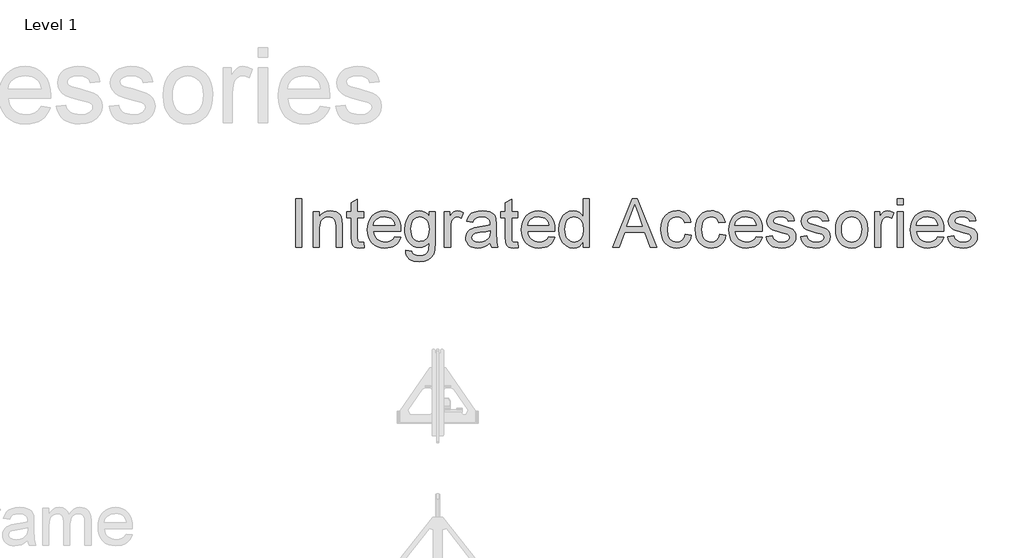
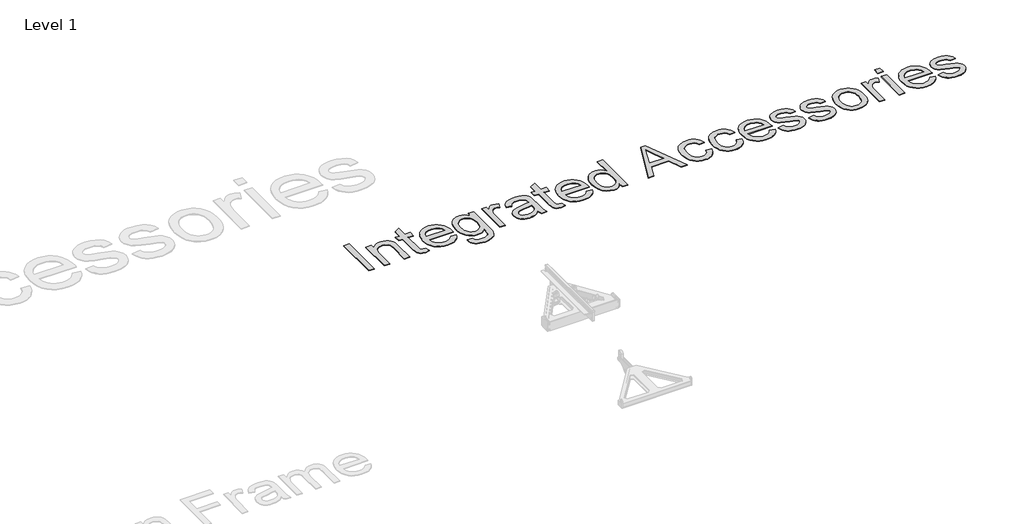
# One storey, part 17 of 52: 1 proxy.
"""IFC4 building model written with IfcOpenShell, lengths in millimetres."""

from ifc_helpers import new_model, si_unit, origin, origin_with_axes, place, context, project, spatial, polyline, outline, extrude, element, save

model = new_model("IFC4")

# Units and contexts
model_context = context("Model", 3, world=origin())
ifc_project = project(units=[si_unit("LENGTHUNIT", "METRE", prefix="MILLI")], contexts=[model_context])

# Site, building, storey
site = spatial("IfcSite", under=ifc_project)
building = spatial("IfcBuilding", under=site)
storey = spatial("IfcBuildingStorey", under=building, Name="Level 1", Elevation=0.0)

# Proxy
placement = place(None, origin())
element("IfcBuildingElementProxy", 1, Name="400mm Arial", ObjectType="400mm Arial", at=placement, inside=storey, context=model_context, shape_type="SweptSolid", body=[
    extrude(outline(polyline([(-11437.7764845, -61267.5695164), (-11437.7764845, -60875.8119407), (-11388.8067875, -60875.8119407), (-11388.8067875, -61267.5695164), (-11437.7764845, -61267.5695164)])), origin_with_axes(), (0.0, 0.0, 1.0), 5.0),
    extrude(outline(polyline([(-11296.9886057, -61267.5695164), (-11296.9886057, -60979.8725467), (-11248.0189088, -60979.8725467), (-11248.0189088, -61020.0430013), (-11231.006243, -60999.7903971), (-11210.5743065, -60985.3242513), (-11186.7230991, -60976.6445638), (-11159.4526209, -60973.7513346), (-11135.3144817, -60976.0826556), (-11113.2087762, -60983.0766187), (-11094.7734069, -60993.8604729), (-11081.6462762, -61007.5614672), (-11072.7394343, -61024.1437352), (-11066.9649315, -61043.5714104), (-11064.3825451, -61090.9151604), (-11064.3825451, -61267.5695164), (-11113.3522421, -61267.5695164), (-11113.3522421, -61097.5145922), (-11114.7629902, -61072.1928592), (-11118.9952345, -61054.1878876), (-11126.8021711, -61041.2879113), (-11138.9369959, -61031.2811642), (-11154.4910915, -61024.8610647), (-11172.5558406, -61022.7210316), (-11201.2370669, -61027.5271395), (-11225.6860489, -61041.9454634), (-11235.4566751, -61053.7156457), (-11242.4356938, -61069.8017607), (-11246.623105, -61090.2038086), (-11248.0189088, -61114.9217892), (-11248.0189088, -61267.5695164), (-11296.9886057, -61267.5695164)])), origin_with_axes(), (0.0, 0.0, 1.0), 5.0),
    extrude(outline(polyline([(-10892.9886057, -61226.7295543), (-10886.8673936, -61269.0041755), (-10923.4990224, -61273.6907285), (-10947.0035205, -61271.6582948), (-10964.5302724, -61265.5609937), (-10976.9161625, -61256.1639767), (-10984.9980754, -61244.2323952), (-10989.4455186, -61223.7406812), (-10990.9279997, -61188.6632664), (-10990.9279997, -61028.8422437), (-11027.6552724, -61028.8422437), (-11027.6552724, -60979.8725467), (-10990.9279997, -60979.8725467), (-10990.9279997, -60909.956827), (-10941.9583027, -60881.1680013), (-10941.9583027, -60979.8725467), (-10892.9886057, -60979.8725467), (-10892.9886057, -61028.8422437), (-10941.9583027, -61028.8422437), (-10941.9583027, -61187.2286073), (-10939.3759163, -61212.4786073), (-10931.0070716, -61221.4213157), (-10914.3172042, -61224.7210316), (-10892.9886057, -61226.7295543)])), origin_with_axes(), (0.0, 0.0, 1.0), 5.0),
    extrude(outline(polyline([(-10642.5927724, -61181.8725467), (-10594.5795148, -61187.9937589), (-10601.9411093, -61207.2241684), (-10611.8791124, -61224.1710789), (-10624.3935241, -61238.8344904), (-10639.4843444, -61251.2144028), (-10656.9961519, -61261.0477953), (-10676.7735252, -61268.0716471), (-10723.1249694, -61273.6907285), (-10753.5098534, -61271.2667525), (-10780.583066, -61263.9948242), (-10804.3446072, -61251.8749437), (-10824.7944769, -61234.9071111), (-10841.2392568, -61213.5635683), (-10852.9855281, -61188.3165571), (-10860.0332909, -61159.1660777), (-10862.3825451, -61126.1121301), (-10860.0093799, -61091.937355), (-10852.8898841, -61061.8154918), (-10841.0240579, -61035.7465406), (-10824.4119012, -61013.7305013), (-10804.0158311, -60996.2396159), (-10780.7982648, -60983.7461263), (-10754.7592023, -60976.2500325), (-10725.8986436, -60973.7513346), (-10697.9676244, -60976.2440548), (-10672.7086578, -60983.7222153), (-10650.1217438, -60996.1858161), (-10630.2068822, -61013.6348573), (-10613.9504014, -61035.6030747), (-10602.3386294, -61061.6242039), (-10595.3715662, -61091.6982451), (-10593.0492118, -61125.8251982), (-10593.3361436, -61139.0240619), (-10813.4128482, -61139.0240619), (-10810.5764076, -61158.5653142), (-10804.936404, -61175.6796017), (-10796.4928375, -61190.3669241), (-10785.245708, -61202.6272816), (-10756.8275025, -61219.1975941), (-10722.16853, -61224.7210316), (-10696.1055565, -61222.1625562), (-10674.1552724, -61214.4871301), (-10656.3176777, -61201.2165335), (-10642.5927724, -61181.8725467)]), holes=[polyline([(-10813.4128482, -61090.0543649), (-10642.0189088, -61090.0543649), (-10648.6422516, -61064.1826793), (-10661.6259163, -61045.675577), (-10674.9802014, -61035.6329634), (-10690.1756322, -61028.4596679), (-10726.0899315, -61022.7210316), (-10759.0990461, -61027.2999852), (-10786.3934353, -61041.036846), (-10805.3668018, -61062.4491329), (-10813.4128482, -61090.0543649)])]), origin_with_axes(), (0.0, 0.0, 1.0), 5.0),
    extrude(outline(polyline([(-10556.3219391, -61292.0543649), (-10507.3522421, -61298.175577), (-10501.9483595, -61313.4786073), (-10491.4753482, -61323.9994407), (-10470.8879902, -61332.1769975), (-10443.9403103, -61334.9028498), (-10415.1993065, -61331.8183327), (-10393.822886, -61322.5647816), (-10378.9980754, -61307.739971), (-10369.9119012, -61287.9416755), (-10366.5643633, -61230.8422437), (-10382.8596995, -61246.9104255), (-10401.0440035, -61258.3876982), (-10421.1172752, -61265.2740619), (-10443.0795148, -61267.5695164), (-10469.9285619, -61264.8974639), (-10493.5675593, -61256.8813062), (-10513.996507, -61243.5210434), (-10531.215405, -61224.8166755), (-10544.8775439, -61202.3762162), (-10554.6362146, -61177.8076793), (-10560.491417, -61151.1110647), (-10562.4431512, -61122.2863725), (-10558.9401919, -61082.749559), (-10548.4313141, -61046.3929066), (-10531.2871379, -61015.5836026), (-10507.8782838, -60992.6888346), (-10479.0057696, -60978.4857096), (-10445.4706133, -60973.7513346), (-10422.5698676, -60976.4293649), (-10401.785244, -60984.4634558), (-10383.1167426, -60997.8536073), (-10366.5643633, -61016.5998195), (-10366.5643633, -60979.8725467), (-10317.5946663, -60979.8725467), (-10317.5946663, -61228.2598573), (-10320.9422042, -61285.6103545), (-10330.9848179, -61323.3777551), (-10348.2844154, -61348.4245117), (-10373.402905, -61367.613077), (-10405.7903339, -61379.8076793), (-10444.8967497, -61383.8725467), (-10490.4591313, -61378.1458659), (-10509.6088413, -61370.9875148), (-10526.3375641, -61360.9658232), (-10539.8502594, -61348.0688358), (-10549.351887, -61332.2845969), (-10554.8424469, -61313.6131066), (-10556.3219391, -61292.0543649)]), holes=[polyline([(-10513.4734542, -61118.9388346), (-10508.248904, -61163.8556196), (-10501.7182163, -61181.0506066), (-10492.5752535, -61194.7366566), (-10481.4596344, -61205.1767903), (-10469.0109779, -61212.6340287), (-10455.229284, -61217.1083718), (-10440.1145527, -61218.5998195), (-10411.4333264, -61212.6698952), (-10387.7494959, -61194.8801225), (-10378.4810004, -61181.3285718), (-10371.8606464, -61164.3936168), (-10366.5643633, -61120.3734937), (-10372.0160679, -61077.9195401), (-10378.8306985, -61061.1489731), (-10388.3711815, -61047.349346), (-10412.4017213, -61028.8781102), (-10426.0847823, -61024.2603012), (-10440.8797042, -61022.7210316), (-10455.4265496, -61024.2363902), (-10468.843601, -61028.7824662), (-10492.2883216, -61046.9667702), (-10501.5568171, -61060.5571762), (-10508.1771711, -61077.0826556), (-10513.4734542, -61118.9388346)])]), origin_with_axes(), (0.0, 0.0, 1.0), 5.0),
    extrude(outline(polyline([(-10244.1401209, -61267.5695164), (-10244.1401209, -60979.8725467), (-10201.291636, -60979.8725467), (-10201.291636, -61022.4340998), (-10185.4625641, -60997.7579634), (-10170.8768633, -60983.2200846), (-10156.2433406, -60976.1185221), (-10140.2708027, -60973.7513346), (-10115.8815982, -60977.5292702), (-10091.1098179, -60988.863077), (-10107.4649315, -61032.7636452), (-10124.6808406, -61025.231685), (-10141.8967497, -61022.7210316), (-10156.5183169, -61025.136041), (-10169.5856701, -61032.3810695), (-10180.1423699, -61043.9061642), (-10187.2319769, -61059.1613725), (-10193.1858122, -61086.5155392), (-10195.1704239, -61116.3564482), (-10195.1704239, -61267.5695164), (-10244.1401209, -61267.5695164)])), origin_with_axes(), (0.0, 0.0, 1.0), 5.0),
    extrude(outline(polyline([(-9876.8673936, -61230.8422437), (-9900.2642923, -61250.90356), (-9924.3546095, -61264.0306907), (-9949.688298, -61271.2757191), (-9976.8153103, -61273.6907285), (-9998.6191396, -61272.2381362), (-10017.7389608, -61267.8803592), (-10034.1747741, -61260.6173976), (-10047.9265792, -61250.4492513), (-10058.7851552, -61238.0215169), (-10066.5412809, -61223.979791), (-10071.1949563, -61208.3240737), (-10072.7461815, -61191.0543649), (-10070.402905, -61170.7539388), (-10063.3730754, -61152.3185695), (-10052.5294438, -61136.5373195), (-10038.744761, -61124.1992513), (-10004.4564088, -61108.1310695), (-9962.0861436, -61100.7664861), (-9912.0165413, -61093.019327), (-9877.1543254, -61083.9331528), (-9876.8673936, -61073.0297437), (-9880.2388425, -61051.1751035), (-9890.3531891, -61036.8763346), (-9912.9729807, -61026.2598573), (-9944.4876588, -61022.7210316), (-9973.6590603, -61025.0762636), (-9994.0312194, -61032.1419596), (-10007.9235016, -61045.2093128), (-10017.6552724, -61065.5695164), (-10066.6249694, -61059.4483043), (-10058.1246143, -61032.6680013), (-10045.4398368, -61011.6263346), (-10027.3870432, -60995.5342418), (-10002.7826398, -60983.6026604), (-9972.6906654, -60976.214166), (-9938.1751588, -60973.7513346), (-9905.0704002, -60975.9272342), (-9878.8280944, -60982.4549331), (-9859.0417544, -60992.2703924), (-9845.3048936, -61004.3095732), (-9836.1948084, -61019.1941613), (-9830.2887951, -61037.5458422), (-9827.8976966, -61080.394327), (-9827.8976966, -61141.3195164), (-9825.4109542, -61226.3948005), (-9815.6552724, -61267.5695164), (-9864.6249694, -61267.5695164), (-9872.4677724, -61250.5448952), (-9876.8673936, -61230.8422437)]), holes=[polyline([(-9876.8673936, -61132.9028498), (-9909.7689088, -61141.0564956), (-9955.8692875, -61147.9189482), (-9998.0004429, -61155.8573952), (-10008.9636294, -61161.2851888), (-10017.0814088, -61168.769327), (-10022.1027156, -61177.7359464), (-10023.7764845, -61187.6111831), (-10020.1300593, -61202.1729729), (-10009.1907838, -61214.1045543), (-9991.1977677, -61222.0669123), (-9966.3901209, -61224.7210316), (-9940.0880375, -61221.7919359), (-9916.8465603, -61213.004649), (-9898.0047042, -61200.0568507), (-9884.9014845, -61184.646221), (-9879.0911152, -61168.769327), (-9877.1543254, -61146.771221), (-9876.8673936, -61132.9028498)])]), origin_with_axes(), (0.0, 0.0, 1.0), 5.0),
    extrude(outline(polyline([(-9656.5037572, -61226.7295543), (-9650.3825451, -61269.0041755), (-9687.0141739, -61273.6907285), (-9710.518672, -61271.6582948), (-9728.0454239, -61265.5609937), (-9740.4313141, -61256.1639767), (-9748.5132269, -61244.2323952), (-9752.9606701, -61223.7406812), (-9754.4431512, -61188.6632664), (-9754.4431512, -61028.8422437), (-9791.1704239, -61028.8422437), (-9791.1704239, -60979.8725467), (-9754.4431512, -60979.8725467), (-9754.4431512, -60909.956827), (-9705.4734542, -60881.1680013), (-9705.4734542, -60979.8725467), (-9656.5037572, -60979.8725467), (-9656.5037572, -61028.8422437), (-9705.4734542, -61028.8422437), (-9705.4734542, -61187.2286073), (-9702.8910679, -61212.4786073), (-9694.5222232, -61221.4213157), (-9677.8323557, -61224.7210316), (-9656.5037572, -61226.7295543)])), origin_with_axes(), (0.0, 0.0, 1.0), 5.0),
    extrude(outline(polyline([(-9406.1079239, -61181.8725467), (-9358.0946663, -61187.9937589), (-9365.4562608, -61207.2241684), (-9375.3942639, -61224.1710789), (-9387.9086756, -61238.8344904), (-9402.9994959, -61251.2144028), (-9420.5113034, -61261.0477953), (-9440.2886768, -61268.0716471), (-9486.6401209, -61273.6907285), (-9517.0250049, -61271.2667525), (-9544.0982175, -61263.9948242), (-9567.8597587, -61251.8749437), (-9588.3096285, -61234.9071111), (-9604.7544083, -61213.5635683), (-9616.5006796, -61188.3165571), (-9623.5484424, -61159.1660777), (-9625.8976966, -61126.1121301), (-9623.5245314, -61091.937355), (-9616.4050357, -61061.8154918), (-9604.5392094, -61035.7465406), (-9587.9270527, -61013.7305013), (-9567.5309826, -60996.2396159), (-9544.3134163, -60983.7461263), (-9518.2743538, -60976.2500325), (-9489.4137951, -60973.7513346), (-9461.4827759, -60976.2440548), (-9436.2238093, -60983.7222153), (-9413.6368953, -60996.1858161), (-9393.7220338, -61013.6348573), (-9377.4655529, -61035.6030747), (-9365.8537809, -61061.6242039), (-9358.8867177, -61091.6982451), (-9356.5643633, -61125.8251982), (-9356.8512951, -61139.0240619), (-9576.9279997, -61139.0240619), (-9574.0915591, -61158.5653142), (-9568.4515555, -61175.6796017), (-9560.007989, -61190.3669241), (-9548.7608595, -61202.6272816), (-9520.342654, -61219.1975941), (-9485.6836815, -61224.7210316), (-9459.620708, -61222.1625562), (-9437.6704239, -61214.4871301), (-9419.8328292, -61201.2165335), (-9406.1079239, -61181.8725467)]), holes=[polyline([(-9576.9279997, -61090.0543649), (-9405.5340603, -61090.0543649), (-9412.1574031, -61064.1826793), (-9425.1410679, -61045.675577), (-9438.4953529, -61035.6329634), (-9453.6907838, -61028.4596679), (-9489.605083, -61022.7210316), (-9522.6141976, -61027.2999852), (-9549.9085868, -61041.036846), (-9568.8819533, -61062.4491329), (-9576.9279997, -61090.0543649)])]), origin_with_axes(), (0.0, 0.0, 1.0), 5.0),
    extrude(outline(polyline([(-9130.0795148, -61267.5695164), (-9130.0795148, -61221.3734937), (-9144.7309708, -61244.2622839), (-9162.4788993, -61260.6114198), (-9183.3233003, -61270.4209014), (-9207.2641739, -61273.6907285), (-9238.9223179, -61268.9563535), (-9267.9024315, -61254.7532285), (-9292.4351019, -61232.0736594), (-9310.7509163, -61201.909952), (-9322.1564561, -61165.4815666), (-9325.9583027, -61124.0079634), (-9322.4553434, -61083.0484464), (-9311.9464656, -61046.0581528), (-9294.4436247, -61015.1412494), (-9269.9587762, -60992.4019028), (-9240.3450214, -60978.4139767), (-9207.4554618, -60973.7513346), (-9183.496655, -60977.086917), (-9162.3115224, -60987.0936642), (-9144.3543728, -61002.4325609), (-9130.0795148, -61021.7645922), (-9130.0795148, -60875.8119407), (-9081.1098179, -60875.8119407), (-9081.1098179, -61267.5695164), (-9130.0795148, -61267.5695164)]), holes=[polyline([(-9276.9886057, -61123.8166755), (-9271.4651682, -61168.111775), (-9264.5608714, -61185.4621833), (-9254.8948557, -61199.6144975), (-9230.816494, -61218.4443981), (-9217.2888543, -61223.1518732), (-9202.7689088, -61224.7210316), (-9174.733279, -61218.7313299), (-9151.2646474, -61200.7622248), (-9141.9961519, -61187.2017075), (-9135.375798, -61170.4789625), (-9130.0795148, -61127.5467892), (-9135.4714419, -61080.6095259), (-9142.2113508, -61062.5387991), (-9151.6472232, -61048.0666755), (-9163.0557518, -61036.9779563), (-9175.7136294, -61029.0574426), (-9189.620856, -61024.3051343), (-9204.7774315, -61022.7210316), (-9219.5843089, -61024.242368), (-9233.1119485, -61028.8063772), (-9245.3603505, -61036.4130593), (-9256.3295148, -61047.0624142), (-9265.3678671, -61060.987574), (-9271.823833, -61078.4216708), (-9276.9886057, -61123.8166755)])]), origin_with_axes(), (0.0, 0.0, 1.0), 5.0),
    extrude(outline(polyline([(-8894.1259163, -61267.5695164), (-8737.7480754, -60875.8119407), (-8696.0473179, -60875.8119407), (-8539.6694769, -61267.5695164), (-8591.4128482, -61267.5695164), (-8636.2698557, -61145.145274), (-8797.6211815, -61145.145274), (-8842.3825451, -61267.5695164), (-8894.1259163, -61267.5695164)]), holes=[polyline([(-8779.6401209, -61096.175577), (-8654.1552724, -61096.175577), (-8689.447886, -60999.8621301), (-8716.8976966, -60924.7816376), (-8741.2869012, -60991.4454634), (-8779.6401209, -61096.175577)])]), origin_with_axes(), (0.0, 0.0, 1.0), 5.0),
    extrude(outline(polyline([(-8309.8370906, -61163.5089104), (-8260.8673936, -61169.6301225), (-8266.1935655, -61192.7371005), (-8274.520566, -61213.1839814), (-8285.848395, -61230.9707652), (-8300.1770527, -61246.097452), (-8316.9027866, -61258.1695105), (-8335.4218444, -61266.7924094), (-8355.734226, -61271.9661488), (-8377.8399315, -61273.6907285), (-8405.3046865, -61271.2846857), (-8429.930012, -61264.0665571), (-8451.715908, -61252.0363429), (-8470.6623747, -61235.1940429), (-8485.9982826, -61213.8564778), (-8496.9525025, -61188.3404681), (-8503.5250345, -61158.6460138), (-8505.7158785, -61124.7731149), (-8501.9738093, -61081.195345), (-8490.7476019, -61043.4279445), (-8471.8579239, -61012.9294833), (-8445.1254429, -60991.1585316), (-8413.1445006, -60978.1031339), (-8378.5094391, -60973.7513346), (-8356.7833205, -60975.2457712), (-8337.1314798, -60979.7290808), (-8319.553917, -60987.2012636), (-8304.0506322, -60997.6623195), (-8290.8846462, -61010.8731386), (-8280.3189798, -61026.5946111), (-8272.353633, -61044.8267371), (-8266.9886057, -61065.5695164), (-8315.9583027, -61071.6907285), (-8324.8412336, -61050.3262636), (-8338.6737383, -61035.0112778), (-8356.6906654, -61025.7935931), (-8378.1268633, -61022.7210316), (-8394.7659199, -61024.2334014), (-8409.7730518, -61028.7705107), (-8423.1482589, -61036.3323597), (-8434.8915413, -61046.9189482), (-8444.4529464, -61060.775364), (-8451.2825214, -61078.1466945), (-8456.7461815, -61123.4340998), (-8451.4020764, -61169.3312352), (-8444.721945, -61186.8191317), (-8435.369761, -61200.6665808), (-8423.8596107, -61211.190403), (-8410.7055802, -61218.7074189), (-8395.9076694, -61223.2176284), (-8379.4658785, -61224.7210316), (-8354.108279, -61220.967007), (-8333.3176777, -61209.7049331), (-8318.1939798, -61190.6478782), (-8309.8370906, -61163.5089104)])), origin_with_axes(), (0.0, 0.0, 1.0), 5.0),
    extrude(outline(polyline([(-8034.3825451, -61163.5089104), (-7985.4128482, -61169.6301225), (-7990.73902, -61192.7371005), (-7999.0660205, -61213.1839814), (-8010.3938496, -61230.9707652), (-8024.7225072, -61246.097452), (-8041.4482411, -61258.1695105), (-8059.9672989, -61266.7924094), (-8080.2796805, -61271.9661488), (-8102.385386, -61273.6907285), (-8129.850141, -61271.2846857), (-8154.4754665, -61264.0665571), (-8176.2613626, -61252.0363429), (-8195.2078292, -61235.1940429), (-8210.5437371, -61213.8564778), (-8221.4979571, -61188.3404681), (-8228.070489, -61158.6460138), (-8230.261333, -61124.7731149), (-8226.5192639, -61081.195345), (-8215.2930565, -61043.4279445), (-8196.4033785, -61012.9294833), (-8169.6708974, -60991.1585316), (-8137.6899552, -60978.1031339), (-8103.0548936, -60973.7513346), (-8081.328775, -60975.2457712), (-8061.6769343, -60979.7290808), (-8044.0993716, -60987.2012636), (-8028.5960868, -60997.6623195), (-8015.4301008, -61010.8731386), (-8004.8644343, -61026.5946111), (-7996.8990875, -61044.8267371), (-7991.5340603, -61065.5695164), (-8040.5037572, -61071.6907285), (-8049.3866881, -61050.3262636), (-8063.2191929, -61035.0112778), (-8081.2361199, -61025.7935931), (-8102.6723179, -61022.7210316), (-8119.3113744, -61024.2334014), (-8134.3185063, -61028.7705107), (-8147.6937134, -61036.3323597), (-8159.4369959, -61046.9189482), (-8168.9984009, -61060.775364), (-8175.827976, -61078.1466945), (-8181.291636, -61123.4340998), (-8175.9475309, -61169.3312352), (-8169.2673995, -61186.8191317), (-8159.9152156, -61200.6665808), (-8148.4050652, -61211.190403), (-8135.2510347, -61218.7074189), (-8120.453124, -61223.2176284), (-8104.011333, -61224.7210316), (-8078.6537336, -61220.967007), (-8057.8631322, -61209.7049331), (-8042.7394343, -61190.6478782), (-8034.3825451, -61163.5089104)])), origin_with_axes(), (0.0, 0.0, 1.0), 5.0),
    extrude(outline(polyline([(-7741.1382269, -61181.8725467), (-7693.1249694, -61187.9937589), (-7700.4865638, -61207.2241684), (-7710.4245669, -61224.1710789), (-7722.9389786, -61238.8344904), (-7738.0297989, -61251.2144028), (-7755.5416064, -61261.0477953), (-7775.3189798, -61268.0716471), (-7821.6704239, -61273.6907285), (-7852.0553079, -61271.2667525), (-7879.1285205, -61263.9948242), (-7902.8900617, -61251.8749437), (-7923.3399315, -61234.9071111), (-7939.7847113, -61213.5635683), (-7951.5309826, -61188.3165571), (-7958.5787454, -61159.1660777), (-7960.9279997, -61126.1121301), (-7958.5548344, -61091.937355), (-7951.4353387, -61061.8154918), (-7939.5695125, -61035.7465406), (-7922.9573557, -61013.7305013), (-7902.5612857, -60996.2396159), (-7879.3437194, -60983.7461263), (-7853.3046569, -60976.2500325), (-7824.4440982, -60973.7513346), (-7796.513079, -60976.2440548), (-7771.2541124, -60983.7222153), (-7748.6671983, -60996.1858161), (-7728.7523368, -61013.6348573), (-7712.495856, -61035.6030747), (-7700.8840839, -61061.6242039), (-7693.9170207, -61091.6982451), (-7691.5946663, -61125.8251982), (-7691.8815982, -61139.0240619), (-7911.9583027, -61139.0240619), (-7909.1218621, -61158.5653142), (-7903.4818586, -61175.6796017), (-7895.038292, -61190.3669241), (-7883.7911625, -61202.6272816), (-7855.3729571, -61219.1975941), (-7820.7139845, -61224.7210316), (-7794.651011, -61222.1625562), (-7772.7007269, -61214.4871301), (-7754.8631322, -61201.2165335), (-7741.1382269, -61181.8725467)]), holes=[polyline([(-7911.9583027, -61090.0543649), (-7740.5643633, -61090.0543649), (-7747.1877061, -61064.1826793), (-7760.1713709, -61045.675577), (-7773.5256559, -61035.6329634), (-7788.7210868, -61028.4596679), (-7824.635386, -61022.7210316), (-7857.6445006, -61027.2999852), (-7884.9388898, -61041.036846), (-7903.9122563, -61062.4491329), (-7911.9583027, -61090.0543649)])]), origin_with_axes(), (0.0, 0.0, 1.0), 5.0),
    extrude(outline(polyline([(-7660.9886057, -61181.8725467), (-7612.0189088, -61175.7513346), (-7604.2956607, -61196.6973573), (-7589.3512951, -61212.0960316), (-7567.0901682, -61221.5647816), (-7537.416636, -61224.7210316), (-7508.1017686, -61221.8278024), (-7487.4904997, -61213.1481149), (-7475.2958974, -61200.5709369), (-7471.23103, -61185.9852361), (-7475.3198084, -61173.503702), (-7487.5861436, -61163.9871301), (-7537.9904997, -61150.0231149), (-7611.7319769, -61126.0643081), (-7630.3945006, -61114.0251272), (-7643.9161625, -61098.0884558), (-7652.1295858, -61079.2705107), (-7654.8673936, -61058.5875089), (-7652.667583, -61039.6141424), (-7646.0681512, -61022.099346), (-7635.6668728, -61006.7365382), (-7622.0615224, -60994.2191376), (-7590.9294201, -60979.7290808), (-7548.7982648, -60973.7513346), (-7516.924922, -60976.1543886), (-7489.2120906, -60983.3635505), (-7466.9270527, -60994.6734464), (-7451.3370906, -61009.378702), (-7441.0075451, -61028.5672674), (-7434.5037572, -61053.3270922), (-7483.4734542, -61059.4483043), (-7489.6544438, -61044.0376746), (-7501.8849125, -61032.4288914), (-7520.2844154, -61025.1479965), (-7544.9725072, -61022.7210316), (-7573.0918254, -61025.0403971), (-7591.8380375, -61031.9984937), (-7602.3827819, -61042.0411073), (-7605.8976966, -61053.614024), (-7600.0634163, -61067.864971), (-7581.7954239, -61078.6727361), (-7539.6164466, -61089.0979255), (-7467.7400262, -61112.1481149), (-7448.7547042, -61123.1710789), (-7434.3602913, -61138.2589104), (-7425.2860726, -61157.4594312), (-7422.261333, -61180.8204634), (-7425.8121143, -61204.9705581), (-7436.464458, -61227.6859937), (-7453.8118775, -61247.1854018), (-7477.447886, -61261.6874142), (-7505.9976019, -61270.6899), (-7538.0861436, -61273.6907285), (-7564.4420267, -61272.244114), (-7587.4623273, -61267.9042702), (-7607.1470456, -61260.6711973), (-7623.4961815, -61250.5448952), (-7636.8504665, -61237.5731859), (-7647.5506322, -61221.8038914), (-7655.5966786, -61203.2370117), (-7660.9886057, -61181.8725467)])), origin_with_axes(), (0.0, 0.0, 1.0), 5.0),
    extrude(outline(polyline([(-7385.5340603, -61181.8725467), (-7336.5643633, -61175.7513346), (-7328.8411152, -61196.6973573), (-7313.8967497, -61212.0960316), (-7291.6356228, -61221.5647816), (-7261.9620906, -61224.7210316), (-7232.6472232, -61221.8278024), (-7212.0359542, -61213.1481149), (-7199.8413519, -61200.5709369), (-7195.7764845, -61185.9852361), (-7199.8652629, -61173.503702), (-7212.1315982, -61163.9871301), (-7262.5359542, -61150.0231149), (-7336.2774315, -61126.0643081), (-7354.9399552, -61114.0251272), (-7368.4616171, -61098.0884558), (-7376.6750404, -61079.2705107), (-7379.4128482, -61058.5875089), (-7377.2130375, -61039.6141424), (-7370.6136057, -61022.099346), (-7360.2123273, -61006.7365382), (-7346.6069769, -60994.2191376), (-7315.4748747, -60979.7290808), (-7273.3437194, -60973.7513346), (-7241.4703766, -60976.1543886), (-7213.7575451, -60983.3635505), (-7191.4725072, -60994.6734464), (-7175.8825451, -61009.378702), (-7165.5529997, -61028.5672674), (-7159.0492118, -61053.3270922), (-7208.0189088, -61059.4483043), (-7214.1998983, -61044.0376746), (-7226.4303671, -61032.4288914), (-7244.8298699, -61025.1479965), (-7269.5179618, -61022.7210316), (-7297.63728, -61025.0403971), (-7316.3834921, -61031.9984937), (-7326.9282364, -61042.0411073), (-7330.4431512, -61053.614024), (-7324.6088709, -61067.864971), (-7306.3408785, -61078.6727361), (-7264.1619012, -61089.0979255), (-7192.2854807, -61112.1481149), (-7173.3001588, -61123.1710789), (-7158.9057459, -61138.2589104), (-7149.8315271, -61157.4594312), (-7146.8067875, -61180.8204634), (-7150.3575688, -61204.9705581), (-7161.0099125, -61227.6859937), (-7178.3573321, -61247.1854018), (-7201.9933406, -61261.6874142), (-7230.5430565, -61270.6899), (-7262.6315982, -61273.6907285), (-7288.9874812, -61272.244114), (-7312.0077819, -61267.9042702), (-7331.6925001, -61260.6711973), (-7348.041636, -61250.5448952), (-7361.3959211, -61237.5731859), (-7372.0960868, -61221.8038914), (-7380.1421332, -61203.2370117), (-7385.5340603, -61181.8725467)])), origin_with_axes(), (0.0, 0.0, 1.0), 5.0),
    extrude(outline(polyline([(-7103.9583027, -61123.7210316), (-7101.3101611, -61086.4617394), (-7093.3657364, -61054.3552645), (-7080.1250286, -61027.4016069), (-7061.5880375, -61005.6007664), (-7042.9255139, -60991.66664), (-7022.3262004, -60981.7136926), (-6999.7900972, -60975.7419241), (-6975.3172042, -60973.7513346), (-6948.3007802, -60976.1753107), (-6923.8727203, -60983.447239), (-6902.0330245, -60995.5671194), (-6882.7816929, -61012.534952), (-6867.0691869, -61033.7768732), (-6855.8459684, -61058.7190193), (-6849.1120373, -61087.3613902), (-6846.8673936, -61119.7039861), (-6850.8366171, -61169.1758138), (-6862.7442875, -61206.8356149), (-6882.2436957, -61235.0386215), (-6908.9881322, -61256.1400657), (-6940.7538756, -61269.3030628), (-6975.3172042, -61273.6907285), (-7002.7281595, -61271.2757191), (-7027.3833737, -61264.0306907), (-7049.282847, -61251.9556433), (-7068.4265792, -61235.050577), (-7083.9717082, -61213.6024236), (-7095.0753718, -61187.8981149), (-7101.73757, -61157.9376509), (-7103.9583027, -61123.7210316)]), holes=[polyline([(-7054.9886057, -61123.6253876), (-7053.5718799, -61147.3779622), (-7049.3217023, -61167.9443981), (-7042.2380731, -61185.3246952), (-7032.3209921, -61199.5188535), (-7020.2579002, -61210.5448064), (-7006.7362383, -61218.4204871), (-6991.7560063, -61223.1458955), (-6975.3172042, -61224.7210316), (-6958.9620906, -61223.1369288), (-6944.041636, -61218.3846206), (-6930.5558406, -61210.4641069), (-6918.5047042, -61199.3753876), (-6908.5876232, -61185.0407522), (-6901.503994, -61167.3824899), (-6897.2538164, -61146.4006007), (-6895.8370906, -61122.0950846), (-6897.262783, -61099.0957061), (-6901.5398605, -61079.0672674), (-6908.6683228, -61062.0097686), (-6918.6481701, -61047.9232096), (-6930.7441396, -61036.8972567), (-6944.2209684, -61029.0215761), (-6959.0786566, -61024.2961677), (-6975.3172042, -61022.7210316), (-6991.7560063, -61024.29019), (-7006.7362383, -61028.9976651), (-7020.2579002, -61036.843457), (-7032.3209921, -61047.8275657), (-7042.2380731, -61061.9798798), (-7049.3217023, -61079.3302882), (-7053.5718799, -61099.8787908), (-7054.9886057, -61123.6253876)])]), origin_with_axes(), (0.0, 0.0, 1.0), 5.0),
    extrude(outline(polyline([(-6791.7764845, -61267.5695164), (-6791.7764845, -60979.8725467), (-6748.9279997, -60979.8725467), (-6748.9279997, -61022.4340998), (-6733.0989277, -60997.7579634), (-6718.5132269, -60983.2200846), (-6703.8797042, -60976.1185221), (-6687.9071663, -60973.7513346), (-6663.5179618, -60977.5292702), (-6638.7461815, -60988.863077), (-6655.1012951, -61032.7636452), (-6672.3172042, -61025.231685), (-6689.5331133, -61022.7210316), (-6704.1546805, -61025.136041), (-6717.2220338, -61032.3810695), (-6727.7787336, -61043.9061642), (-6734.8683406, -61059.1613725), (-6740.8221758, -61086.5155392), (-6742.8067875, -61116.3564482), (-6742.8067875, -61267.5695164), (-6791.7764845, -61267.5695164)])), origin_with_axes(), (0.0, 0.0, 1.0), 5.0),
    extrude(outline(polyline([(-6608.1401209, -60924.7816376), (-6608.1401209, -60875.8119407), (-6559.1704239, -60875.8119407), (-6559.1704239, -60924.7816376), (-6608.1401209, -60924.7816376)])), origin_with_axes(), (0.0, 0.0, 1.0), 5.0),
    extrude(outline(polyline([(-6608.1401209, -61267.5695164), (-6608.1401209, -60979.8725467), (-6559.1704239, -60979.8725467), (-6559.1704239, -61267.5695164), (-6608.1401209, -61267.5695164)])), origin_with_axes(), (0.0, 0.0, 1.0), 5.0),
    extrude(outline(polyline([(-6284.2897421, -61181.8725467), (-6236.2764845, -61187.9937589), (-6243.638079, -61207.2241684), (-6253.5760821, -61224.1710789), (-6266.0904938, -61238.8344904), (-6281.1813141, -61251.2144028), (-6298.6931216, -61261.0477953), (-6318.4704949, -61268.0716471), (-6364.8219391, -61273.6907285), (-6395.2068231, -61271.2667525), (-6422.2800357, -61263.9948242), (-6446.0415768, -61251.8749437), (-6466.4914466, -61234.9071111), (-6482.9362265, -61213.5635683), (-6494.6824978, -61188.3165571), (-6501.7302606, -61159.1660777), (-6504.0795148, -61126.1121301), (-6501.7063496, -61091.937355), (-6494.5868538, -61061.8154918), (-6482.7210276, -61035.7465406), (-6466.1088709, -61013.7305013), (-6445.7128008, -60996.2396159), (-6422.4952345, -60983.7461263), (-6396.456172, -60976.2500325), (-6367.5956133, -60973.7513346), (-6339.6645941, -60976.2440548), (-6314.4056275, -60983.7222153), (-6291.8187134, -60996.1858161), (-6271.9038519, -61013.6348573), (-6255.6473711, -61035.6030747), (-6244.0355991, -61061.6242039), (-6237.0685359, -61091.6982451), (-6234.7461815, -61125.8251982), (-6235.0331133, -61139.0240619), (-6455.1098179, -61139.0240619), (-6452.2733773, -61158.5653142), (-6446.6333737, -61175.6796017), (-6438.1898072, -61190.3669241), (-6426.9426777, -61202.6272816), (-6398.5244722, -61219.1975941), (-6363.8654997, -61224.7210316), (-6337.8025262, -61222.1625562), (-6315.8522421, -61214.4871301), (-6298.0146474, -61201.2165335), (-6284.2897421, -61181.8725467)]), holes=[polyline([(-6455.1098179, -61090.0543649), (-6283.7158785, -61090.0543649), (-6290.3392213, -61064.1826793), (-6303.322886, -61045.675577), (-6316.6771711, -61035.6329634), (-6331.8726019, -61028.4596679), (-6367.7869012, -61022.7210316), (-6400.7960158, -61027.2999852), (-6428.090405, -61041.036846), (-6447.0637714, -61062.4491329), (-6455.1098179, -61090.0543649)])]), origin_with_axes(), (0.0, 0.0, 1.0), 5.0),
    extrude(outline(polyline([(-6204.1401209, -61181.8725467), (-6155.1704239, -61175.7513346), (-6147.4471758, -61196.6973573), (-6132.5028103, -61212.0960316), (-6110.2416834, -61221.5647816), (-6080.5681512, -61224.7210316), (-6051.2532838, -61221.8278024), (-6030.6420148, -61213.1481149), (-6018.4474125, -61200.5709369), (-6014.3825451, -61185.9852361), (-6018.4713235, -61173.503702), (-6030.7376588, -61163.9871301), (-6081.1420148, -61150.0231149), (-6154.8834921, -61126.0643081), (-6173.5460158, -61114.0251272), (-6187.0676777, -61098.0884558), (-6195.281101, -61079.2705107), (-6198.0189088, -61058.5875089), (-6195.8190982, -61039.6141424), (-6189.2196663, -61022.099346), (-6178.8183879, -61006.7365382), (-6165.2130375, -60994.2191376), (-6134.0809353, -60979.7290808), (-6091.94978, -60973.7513346), (-6060.0764372, -60976.1543886), (-6032.3636057, -60983.3635505), (-6010.0785679, -60994.6734464), (-5994.4886057, -61009.378702), (-5984.1590603, -61028.5672674), (-5977.6552724, -61053.3270922), (-6026.6249694, -61059.4483043), (-6032.8059589, -61044.0376746), (-6045.0364277, -61032.4288914), (-6063.4359305, -61025.1479965), (-6088.1240224, -61022.7210316), (-6116.2433406, -61025.0403971), (-6134.9895527, -61031.9984937), (-6145.534297, -61042.0411073), (-6149.0492118, -61053.614024), (-6143.2149315, -61067.864971), (-6124.9469391, -61078.6727361), (-6082.7679618, -61089.0979255), (-6010.8915413, -61112.1481149), (-5991.9062194, -61123.1710789), (-5977.5118065, -61138.2589104), (-5968.4375877, -61157.4594312), (-5965.4128482, -61180.8204634), (-5968.9636294, -61204.9705581), (-5979.6159732, -61227.6859937), (-5996.9633927, -61247.1854018), (-6020.5994012, -61261.6874142), (-6049.1491171, -61270.6899), (-6081.2376588, -61273.6907285), (-6107.5935418, -61272.244114), (-6130.6138425, -61267.9042702), (-6150.2985607, -61260.6711973), (-6166.6476966, -61250.5448952), (-6180.0019817, -61237.5731859), (-6190.7021474, -61221.8038914), (-6198.7481938, -61203.2370117), (-6204.1401209, -61181.8725467)])), origin_with_axes(), (0.0, 0.0, 1.0), 5.0),
])

save(model, "model.ifc")
